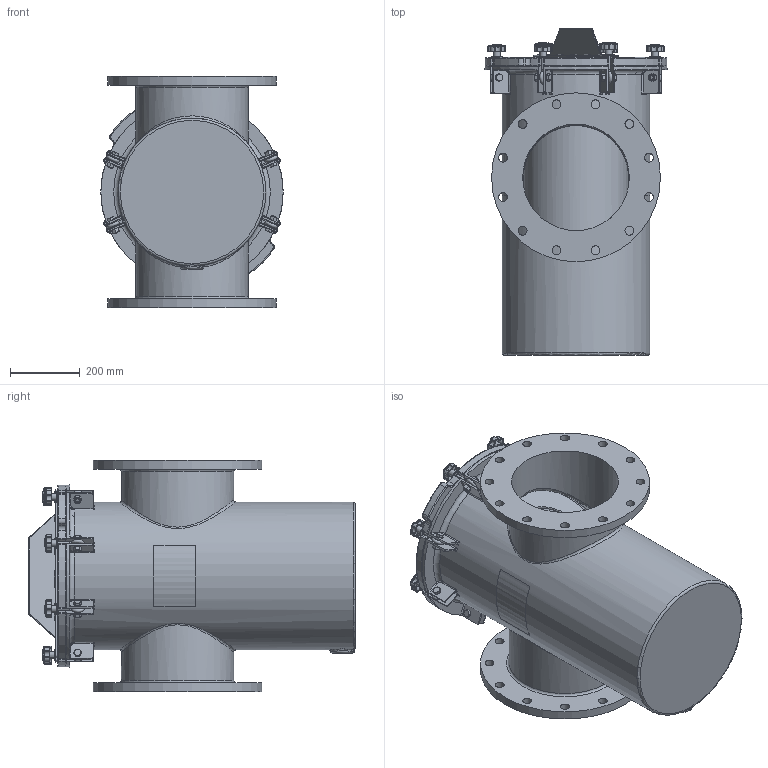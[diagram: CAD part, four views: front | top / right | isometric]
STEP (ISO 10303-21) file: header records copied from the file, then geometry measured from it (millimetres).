
FILE_DESCRIPTION(/* description */ ('STRAINER BODY'),/* implementation_level */ '2;1');
FILE_NAME(/* name */ '\\chntshnas1\IP_PUMPS\NeptuneBenson\Project Execution\WIP\Ready for delivery - Do not Disturb -Updated with metric Flange\Workspace\FG Straight Strainer\1500NBFG12R1.stp',/* time_stamp */ '2016-10-18T19:39:28+05:00',/* author */ ('20076253'),/* organization */ (''),/* preprocessor_version */ 'ST-DEVELOPER v16.1',/* originating_system */ 'Autodesk Inventor 2016',/* authorisation */ '');
FILE_SCHEMA (('AUTOMOTIVE_DESIGN { 1 0 10303 214 3 1 1 }'));
Length unit declared in the file: inch
Products named in the file (24): NBFG12BODYR1; 150NBCVR20R2; 150NBGSK16R1; Perforated Basket 16in; Bride (Ring) 16in; Baffle 16in; Handle 16in; Bottom Strainer 16in; NBBSK10T316; BRACESTRCVR16_Welds; BRACE (BASE) FOR 16 BODY; BRACE (PROJ) FOR 16 BODY; Bumper; BRACESTRCVR16; Nut- 1_2  UNC; Bolt-1_2 x 1 1_2  UNC; EyeBolt; Washer; Knob M10; Securing Assembly For FG  with Brace; Securing Assembly For FG without Brace; Label for 16.625 inch (Right); Label for 16.625 inch (Left); Guardian FG H&L Strainer (Inch)
Assembly tree (39 placements, depth 3):
  Guardian FG H&L Strainer (Inch)
    NBFG12BODYR1
    150NBCVR20R2
    150NBGSK16R1
    NBBSK10T316
      Perforated Basket 16in
      Bride (Ring) 16in
      Baffle 16in
      Handle 16in
      Bottom Strainer 16in
    BRACESTRCVR16
      BRACESTRCVR16_Welds
      BRACE (BASE) FOR 16 BODY
      BRACE (PROJ) FOR 16 BODY
      Bumper  x6
    Securing Assembly For FG  with Brace  x2
      Nut- 1_2  UNC
      Bolt-1_2 x 1 1_2  UNC
      EyeBolt
      Washer
      Knob M10
    Securing Assembly For FG without Brace  x6
      Nut- 1_2  UNC
      Bolt-1_2 x 1 1_2  UNC
      EyeBolt
      Washer
      Knob M10
    Label for 16.625 inch (Right)
    Label for 16.625 inch (Left)
Bounding box: 520.7 x 933.45 x 660.4 mm (x, y, z)
Volume: 24578532.1 mm3; surface area: 5828405.4 mm2
Topology: 66 solids, 66 shells, 1815 faces, 4134 edges, 2441 vertices
Faces by surface type: cylinder 665, plane 500, cone 184, torus 167, sphere 158, bspline 141
Full cylindrical faces by diameter (mm): 3.175 x11, 6.35 x1, 8.382 x8, 9.525 x16, 10.592 x8, 12.7 x8, 15.875 x16, 19 x16, 19.05 x8, 22.809 x1, 25.4 x24, 31.75 x8, 295.275 x2, 298.45 x1, 300.99 x1, 304.8 x2, 320.675 x2, 406.4 x2, 409.575 x1, 415.925 x1, 422.275 x1, 457.2 x1, 463.55 x1, 482.6 x2
Entity records: 34149 total; most frequent: CARTESIAN_POINT 11118, DIRECTION 4763, ORIENTED_EDGE 4338, EDGE_CURVE 2169, AXIS2_PLACEMENT_3D 1958, VERTEX_POINT 1360, EDGE_LOOP 1189, ADVANCED_FACE 965
